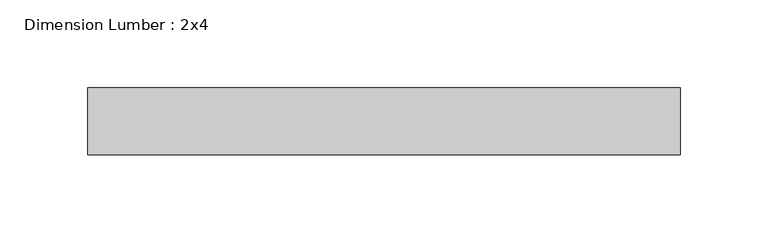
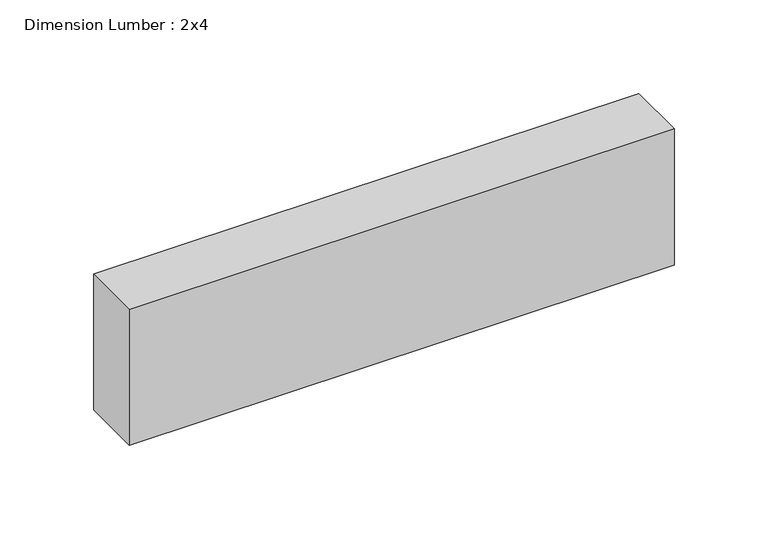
"""IFC4 building model written with IfcOpenShell, lengths in millimetres: beam geometry, Dimension Lumber : 2x4."""

import ifcopenshell
import ifcopenshell.guid

model = None  # the IFC model being written
_history = None  # IfcOwnerHistory: only IFC2X3 demands one
_inside = {}  # id of a spatial element -> (the spatial element, [elements in it])
_under = {}  # id of a project, library or spatial element -> (it, [spatial elements below it])
_declared = {}  # id of a project -> (the project, [libraries it declares])
_typed = {}  # id of a type object -> (the type object, [elements of that type])
_made_of = {}  # id of a material, layer set ... -> (it, [elements and type objects made of it])


def new_model(schema):
    """Start an empty IFC model of exactly this schema.

    Asked for "IFC4X3", IfcOpenShell would pick the latest addendum, in which some entities
    have other attributes; the version numbers below select the first issue.
    IFC2X3 requires an IfcOwnerHistory on every rooted entity: one is made here for all.
    """
    global model, _history
    if schema == "IFC4X3":
        model = ifcopenshell.file(schema_version=(4, 3, 0, 0))
    else:
        model = ifcopenshell.file(schema=schema)
    _inside.clear()
    _under.clear()
    _declared.clear()
    _typed.clear()
    _made_of.clear()
    _history = None
    if model.schema == "IFC2X3":
        org = make("IfcOrganization", Name="unknown")
        user = make(
            "IfcPersonAndOrganization",
            ThePerson=make("IfcPerson", FamilyName="unknown"),
            TheOrganization=org,
        )
        app = make(
            "IfcApplication",
            ApplicationDeveloper=org,
            Version="unknown",
            ApplicationFullName="unknown",
            ApplicationIdentifier="unknown",
        )
        _history = make(
            "IfcOwnerHistory",
            OwningUser=user,
            OwningApplication=app,
            ChangeAction="ADDED",
            CreationDate=0,
        )
    return model


def make(cls, **values):
    """One entity of the class cls with the attributes given. An attribute that is None is left unset."""
    return model.create_entity(
        cls, **{name: value for name, value in values.items() if value is not None}
    )


def rooted(cls, **values):
    """An entity with a GlobalId (a new one), such as an element, a storey or a relation."""
    return make(cls, GlobalId=ifcopenshell.guid.new(), OwnerHistory=_history, **values)


def si_unit(unit_type, name, prefix=None):
    """IfcSIUnit, for example si_unit("LENGTHUNIT", "METRE", prefix="MILLI")."""
    return make("IfcSIUnit", UnitType=unit_type, Prefix=prefix, Name=name)


def assignment(units):
    """IfcUnitAssignment: the units of a project."""
    return None if units is None else make("IfcUnitAssignment", Units=units)


def point(xyz):
    """IfcCartesianPoint."""
    return None if xyz is None else make("IfcCartesianPoint", Coordinates=xyz)


def direction(xyz):
    """IfcDirection."""
    return None if xyz is None else make("IfcDirection", DirectionRatios=xyz)


def frame(location, z_axis=None, x_axis=None):
    """IfcAxis2Placement3D, a coordinate frame: its origin and axes. An axis left out is left unset."""
    return make(
        "IfcAxis2Placement3D",
        Location=point(location),
        Axis=direction(z_axis),
        RefDirection=direction(x_axis),
    )


def origin():
    """The frame at (0, 0, 0) with its axes left unset."""
    return frame((0.0, 0.0, 0.0))


def place(relative_to, where):
    """IfcLocalPlacement: puts the frame where relative to a parent placement (None: the world)."""
    return make(
        "IfcLocalPlacement", PlacementRelTo=relative_to, RelativePlacement=where
    )


def context(
    kind, dimensions, precision=None, world=None, true_north=None, identifier=None
):
    """IfcGeometricRepresentationContext, for example the 3D "Model" context."""
    return make(
        "IfcGeometricRepresentationContext",
        ContextIdentifier=identifier,
        ContextType=kind,
        CoordinateSpaceDimension=dimensions,
        Precision=precision,
        WorldCoordinateSystem=world,
        TrueNorth=true_north,
    )


def project(units=None, contexts=None):
    """IfcProject with its units and contexts."""
    return rooted(
        "IfcProject",
        Name="project",
        RepresentationContexts=contexts,
        UnitsInContext=assignment(units),
    )


def spatial(cls, under=None, at=None, **own):
    """A site, building, storey or space (cls), placed at a placement, below another one or the project."""
    s = rooted(cls, ObjectPlacement=at, **own)
    if under is not None:
        _under.setdefault(under.id(), (under, []))[1].append(s)
    return s


def polyline(points):
    """IfcPolyline through the points."""
    return make("IfcPolyline", Points=[point(p) for p in points])


def outline(outer, holes=None, kind="AREA"):
    """IfcArbitraryClosedProfileDef: a profile drawn as a closed curve; with holes, ...WithVoids."""
    if holes is None:
        return make("IfcArbitraryClosedProfileDef", ProfileType=kind, OuterCurve=outer)
    return make(
        "IfcArbitraryProfileDefWithVoids",
        ProfileType=kind,
        OuterCurve=outer,
        InnerCurves=holes,
    )


def extrude(swept, where, along, depth):
    """IfcExtrudedAreaSolid: the profile swept, set in the frame where, extruded along a direction by depth."""
    return make(
        "IfcExtrudedAreaSolid",
        SweptArea=swept,
        Position=where,
        ExtrudedDirection=direction(along),
        Depth=depth,
    )


def shape(context_of_items, identifier, shape_type, items):
    """IfcShapeRepresentation: the items that make up one representation, for example the "Body"."""
    return make(
        "IfcShapeRepresentation",
        ContextOfItems=context_of_items,
        RepresentationIdentifier=identifier,
        RepresentationType=shape_type,
        Items=items,
    )


def source(mapping_origin, context_of_items, identifier, shape_type, items):
    """IfcRepresentationMap: a shape defined once, which mapped items show again and again."""
    return make(
        "IfcRepresentationMap",
        MappingOrigin=mapping_origin,
        MappedRepresentation=shape(context_of_items, identifier, shape_type, items),
    )


def transform(
    local_origin,
    x_axis=None,
    y_axis=None,
    z_axis=None,
    scale=None,
    scale2=None,
    scale3=None,
    uniform=True,
):
    """IfcCartesianTransformationOperator3D, or its non-uniform kind. x_axis, y_axis, z_axis: its Axis1, 2, 3."""
    if uniform:
        return make(
            "IfcCartesianTransformationOperator3D",
            Axis1=direction(x_axis),
            Axis2=direction(y_axis),
            LocalOrigin=point(local_origin),
            Scale=scale,
            Axis3=direction(z_axis),
        )
    return make(
        "IfcCartesianTransformationOperator3DnonUniform",
        Axis1=direction(x_axis),
        Axis2=direction(y_axis),
        LocalOrigin=point(local_origin),
        Scale=scale,
        Axis3=direction(z_axis),
        Scale2=scale2,
        Scale3=scale3,
    )


def mapped(mapping_source, mapping_target):
    """IfcMappedItem: shows the shape of a source again, moved by a transform."""
    return make(
        "IfcMappedItem", MappingSource=mapping_source, MappingTarget=mapping_target
    )


def made_of(thing, what):
    """Note that an element or type object is made of a material, layer set ...; save() writes the relation."""
    if what is not None:
        _made_of.setdefault(what.id(), (what, []))[1].append(thing)
    return thing


def element(
    cls,
    number,
    at=None,
    inside=None,
    cuts=None,
    type_object=None,
    material=None,
    context=None,
    identifier="Body",
    shape_type=None,
    held_by="IfcProductDefinitionShape",
    body=None,
    shapes=None,
    **own,
):
    """One element of the class cls, such as IfcWall. Its Tag is "e" and its number.

    at: its placement. inside: the storey or other place that contains it. cuts: it is an
    opening in that element (IfcRelVoidsElement). A single representation is given by context,
    identifier, shape_type and body (its items); several are given by shapes. held_by: the class
    of the entity that holds the representations. save() writes the other relations.
    """
    e = rooted(cls, Tag="e%d" % number, ObjectPlacement=at, **own)
    if body is not None:
        shapes = [shape(context, identifier, shape_type, body)]
    if shapes is not None:
        e.Representation = make(held_by, Representations=shapes)
    if inside is not None:
        _inside.setdefault(inside.id(), (inside, []))[1].append(e)
    if cuts is not None:
        rooted(
            "IfcRelVoidsElement", RelatingBuildingElement=cuts, RelatedOpeningElement=e
        )
    if type_object is not None:
        _typed.setdefault(type_object.id(), (type_object, []))[1].append(e)
    return made_of(e, material)


def aggregate(whole, parts):
    """IfcRelAggregates: a whole, such as a stair, and the parts it consists of."""
    return rooted("IfcRelAggregates", RelatingObject=whole, RelatedObjects=parts)


def save(model, path):
    """Write the relations noted so far, then the file.

    IfcRelAggregates (storeys below a building ...), IfcRelContainedInSpatialStructure (elements
    in a storey), IfcRelDefinesByType, IfcRelAssociatesMaterial and IfcRelDeclares: one each for
    every whole, place, type object, material and project.
    """
    for whole, parts in _under.values():
        aggregate(whole, parts)
    for where, things in _inside.values():
        rooted(
            "IfcRelContainedInSpatialStructure",
            RelatedElements=things,
            RelatingStructure=where,
        )
    for kind, things in _typed.values():
        rooted("IfcRelDefinesByType", RelatedObjects=things, RelatingType=kind)
    for what, things in _made_of.values():
        rooted("IfcRelAssociatesMaterial", RelatedObjects=things, RelatingMaterial=what)
    for by, libraries in _declared.values():
        rooted("IfcRelDeclares", RelatingContext=by, RelatedDefinitions=libraries)
    model.write(path)


def dimension_lumber_2x4_f6b1fdbc(model_context):
    return source(origin(), model_context, "Body", "SweptSolid", [
        extrude(outline(polyline([(168.275, 19.05), (168.275, -19.05), (-168.275, -19.05), (-168.275, 19.05), (168.275, 19.05)])), frame((0.0, 0.0, -44.45), z_axis=(0.0, 0.0, 1.0), x_axis=(1.0, 0.0, 0.0)), (0.0, 0.0, 1.0), 88.9),
    ])


if __name__ == "__main__":
    model = new_model("IFC4")
    model_context = context("Model", 3, world=origin())
    ifc_project = project(units=[si_unit("LENGTHUNIT", "METRE", prefix="MILLI")], contexts=[model_context])
    site = spatial("IfcSite", under=ifc_project)
    building = spatial("IfcBuilding", under=site)
    placement = place(None, origin())
    dimension_lumber_2x4_shape = dimension_lumber_2x4_f6b1fdbc(model_context)
    element("IfcBeam", 1, ObjectType="Dimension Lumber : 2x4", at=placement, inside=building, context=model_context, shape_type="MappedRepresentation", body=[
        mapped(dimension_lumber_2x4_shape, transform((0.0, 0.0, 0.0), x_axis=(1.0, 0.0, 0.0), y_axis=(0.0, 1.0, 0.0), z_axis=(0.0, 0.0, 1.0))),
    ])
    save(model, "model.ifc")
